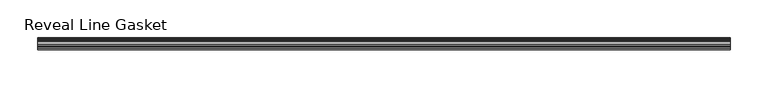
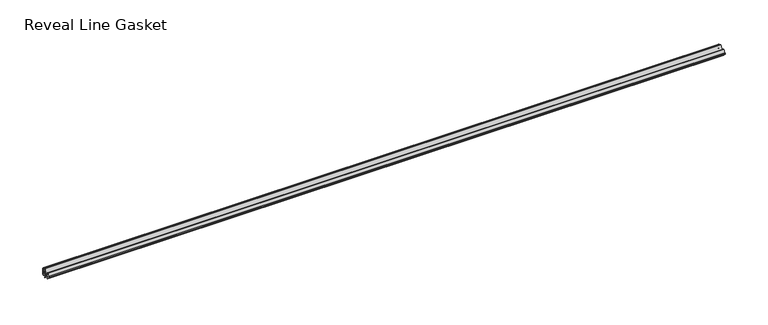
"""IFC4 building model written with IfcOpenShell, lengths in millimetres: proxy geometry, Accessories-Teknion-FHGR-AI_Healthcare-Reveal_Line_Gasket(Horizontal)-R2022 : Reveal Line Gasket."""

from ifc_helpers import new_model, si_unit, point, frame, frame_2d, origin, place, context, project, spatial, polyline, circle_curve, trimmed, segment, composite_curve, outline, extrude, source, transform, mapped, element, save


def reveal_line_gasket_4500f985(model_context):
    return source(origin(), model_context, "Body", "SweptSolid", [
        extrude(outline(composite_curve([segment(polyline([(7.6326998, 1603.2), (7.6326998, 1597.2), (7.4091917, 1596.2445073), (6.8813059, 1595.3115316)]), True, "CONTINUOUS"), segment(trimmed(circle_curve(frame_2d((6.5243141, 1595.5135207)), 0.4101739), [point((6.8813059, 1595.3115316))], [point((6.1246704, 1595.6058653))], False, "CARTESIAN"), True, "CONTINUOUS"), segment(polyline([(6.1246704, 1595.6058653), (6.3626997, 1597.3020914), (6.3626997, 1599.3345473)]), True, "CONTINUOUS"), segment(trimmed(circle_curve(frame_2d((5.6959605, 1598.9180742)), 0.786124), [point((6.3626997, 1599.3345473))], [point((5.0926996, 1599.422125))], True, "CARTESIAN"), True, "CONTINUOUS"), segment(polyline([(5.0926996, 1599.422125), (0.7492996, 1599.422125), (3.7293824, 1594.2604705)]), True, "CONTINUOUS"), segment(trimmed(circle_curve(frame_2d((3.3132479, 1594.1950239)), 0.4212495), [point((3.7293824, 1594.2604705))], [point((3.0485022, 1593.8673642))], False, "CARTESIAN"), True, "CONTINUOUS"), segment(polyline([(3.0485022, 1593.8673642), (-0.5742594, 1599.422125), (-4.8262978, 1599.422125), (-3.1660374, 1596.5464703)]), True, "CONTINUOUS"), segment(trimmed(circle_curve(frame_2d((-3.5978728, 1596.4881145)), 0.4357605), [point((-3.1660374, 1596.5464703))], [point((-3.864328, 1596.1433119))], False, "CARTESIAN"), True, "CONTINUOUS"), segment(polyline([(-3.864328, 1596.1433119), (-6.1944059, 1599.422125), (-7.6326998, 1599.422125), (-7.6326998, 1600.977875), (-6.1944059, 1600.977875), (-3.864328, 1604.2566881)]), True, "CONTINUOUS"), segment(trimmed(circle_curve(frame_2d((-3.5978728, 1603.9118855)), 0.4357605), [point((-3.864328, 1604.2566881))], [point((-3.1660374, 1603.8535297))], False, "CARTESIAN"), True, "CONTINUOUS"), segment(polyline([(-3.1660374, 1603.8535297), (-4.8262978, 1600.977875), (-0.5742594, 1600.977875), (3.0485022, 1606.5326358)]), True, "CONTINUOUS"), segment(trimmed(circle_curve(frame_2d((3.3132479, 1606.2049761)), 0.4212495), [point((3.0485022, 1606.5326358))], [point((3.7293824, 1606.1395295))], False, "CARTESIAN"), True, "CONTINUOUS"), segment(polyline([(3.7293824, 1606.1395295), (0.7492996, 1600.977875), (5.0926996, 1600.977875)]), True, "CONTINUOUS"), segment(trimmed(circle_curve(frame_2d((5.6959605, 1601.4819258)), 0.786124), [point((5.0926996, 1600.977875))], [point((6.3626997, 1601.0654527))], True, "CARTESIAN"), True, "CONTINUOUS"), segment(polyline([(6.3626997, 1601.0654527), (6.3626997, 1603.0979086), (6.1246704, 1604.7941347)]), True, "CONTINUOUS"), segment(trimmed(circle_curve(frame_2d((6.5243141, 1604.8864793)), 0.4101739), [point((6.1246704, 1604.7941347))], [point((6.8813059, 1605.0884684))], False, "CARTESIAN"), True, "CONTINUOUS"), segment(polyline([(6.8813059, 1605.0884684), (7.4091917, 1604.1554927), (7.6326998, 1603.2)]), True, "CONTINUOUS")], self_intersect=False)), frame((-455.4056163, 0.0, 0.0), z_axis=(1.0, 0.0, 0.0), x_axis=(0.0, 1.0, 0.0)), (0.0, 0.0, 1.0), 910.8112326),
    ])


if __name__ == "__main__":
    model = new_model("IFC4")
    model_context = context("Model", 3, world=origin())
    ifc_project = project(units=[si_unit("LENGTHUNIT", "METRE", prefix="MILLI")], contexts=[model_context])
    site = spatial("IfcSite", under=ifc_project)
    building = spatial("IfcBuilding", under=site)
    placement = place(None, origin())
    reveal_line_gasket_shape = reveal_line_gasket_4500f985(model_context)
    element("IfcBuildingElementProxy", 1, Name="Accessories-Teknion-FHGR-AI_Healthcare-Reveal_Line_Gasket(Horizontal)-R2022 : Reveal Line Gasket", ObjectType="Accessories-Teknion-FHGR-AI_Healthcare-Reveal_Line_Gasket(Horizontal)-R2022 : Reveal Line Gasket", at=placement, inside=building, context=model_context, shape_type="MappedRepresentation", body=[
        mapped(reveal_line_gasket_shape, transform((0.0, 0.0, 0.0), x_axis=(1.0, 0.0, 0.0), y_axis=(0.0, 1.0, 0.0), z_axis=(0.0, 0.0, 1.0))),
    ])
    save(model, "model.ifc")
